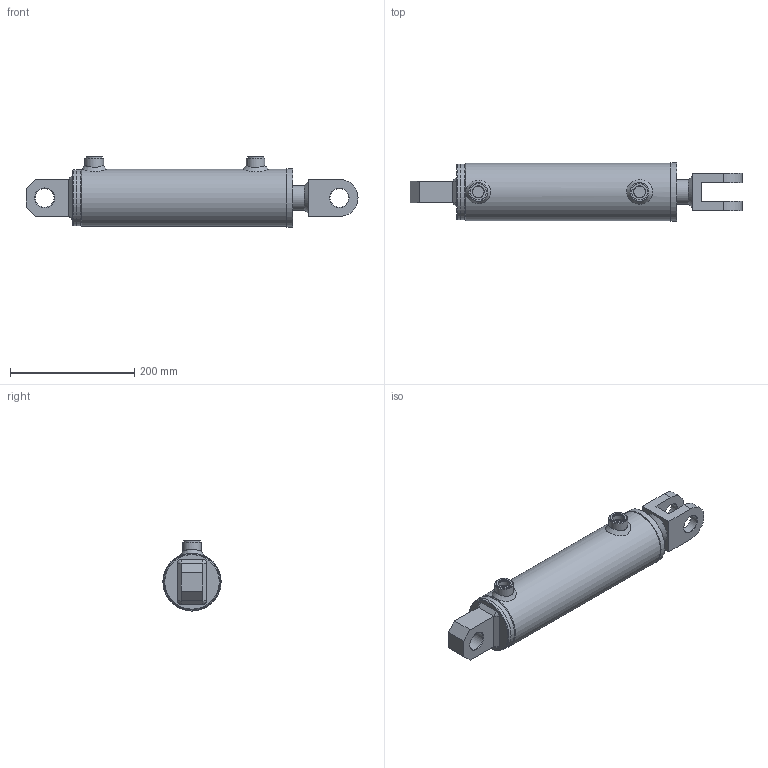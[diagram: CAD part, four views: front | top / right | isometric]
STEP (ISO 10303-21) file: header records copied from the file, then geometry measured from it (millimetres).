
FILE_DESCRIPTION( ( 'Unknown' ), '1' );
FILE_NAME( 'E:/LIBRERIA_3d/CILINDRI/HM5/HM55400200.stp', 'Unknown', ( 'Unknown' ), ( 'Unknown' ), 'PSStep 17.0.49', 'Unknown', ' ' );
FILE_SCHEMA( ( 'AUTOMOTIVE_DESIGN { 1 0 10303 214 1 1 1 1 }' ) );
Length unit declared in the file: millimetre
Products named in the file (28): CG09508040; CT00080027; STL5600200-oa7; Saldatura d'angolo 1-oa5; FTM5600200-oa6; CBSC220800; HM05400200; Saldatura con preparazione 1-oa3; Saldatura d'angolo 1-oa4; CF00080090; CBS0800000; CDA0002720; APG0800000; SBL4050200; Assem1; COF3000000; CFS0000030; Saldatura d'angolo 1-oa0; Saldatura con preparazione 1-oa1; Saldatura d'angolo 2-oa2
Assembly tree (20 placements, depth 4):
  Saldatura d'angolo 1-oa5
  Saldatura d'angolo 1-oa5
  Saldatura d'angolo 1-oa4
  Saldatura d'angolo 1-oa4
  Assem1
    COF3000000
    CFS0000030
    Saldatura con preparazione 1-oa1
    Saldatura con preparazione 1-oa1
    HM05400200
      Saldatura con preparazione 1-oa3
      Saldatura con preparazione 1-oa3
      CF00080090
      CBS0800000
      CDA0002720
      APG0800000  x2
      SBL4050200
      CG09508040
        CG09508040
      CT00080027
        CT00080027
      STL5600200-oa7
        FTM5600200-oa6
        CBSC220800
Bounding box: 535 x 94 x 113 mm (x, y, z)
Volume: 1738719.1 mm3; surface area: 414553.9 mm2
Topology: 24 solids, 24 shells, 269 faces, 572 edges, 352 vertices
Faces by surface type: plane 90, cylinder 69, cone 46, torus 36, bspline 28
Full cylindrical faces by diameter (mm): 4.25 x3, 8 x2, 12 x1, 18.631 x2, 19.5 x2, 20.95 x2, 26 x2, 26.4 x1, 27 x5, 30 x2, 30.25 x3, 33.2 x1, 40 x9, 41 x1, 43 x3, 48.6 x1, 50 x1, 60 x1, 74.16 x2, 75 x1, 78.34 x2, 79.9 x1, 80 x1, 80.3 x1, 80.5 x1, 80.6 x1, 81 x1, 82 x3, 82.835 x1, 85 x1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
Entity records: 11845 total; most frequent: CARTESIAN_POINT 4964, DIRECTION 1020, ORIENTED_EDGE 696, AXIS2_PLACEMENT_3D 469, EDGE_LOOP 467, FACE_OUTER_BOUND 370, EDGE_CURVE 348, VERTEX_POINT 296
